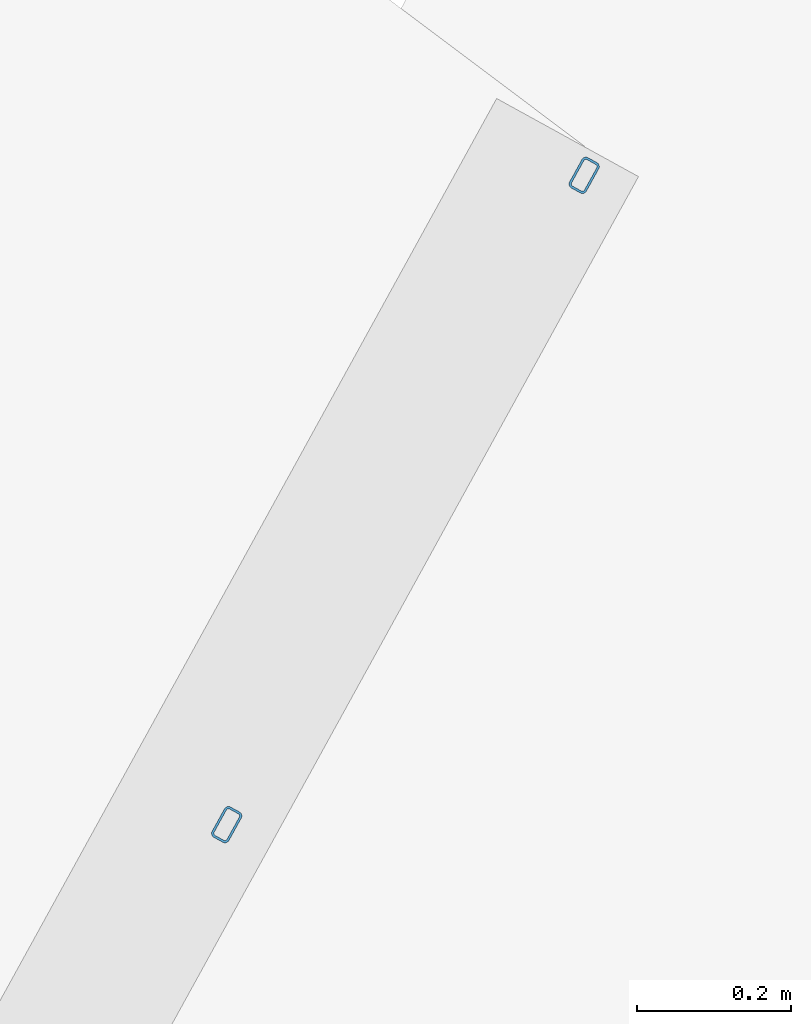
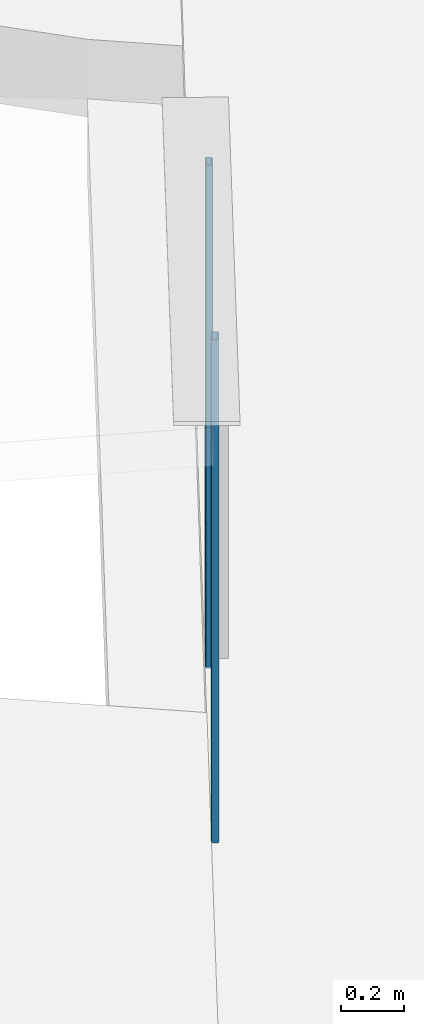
# One storey, part 3 of 33: 2 columns.
"""IFC2X3 building model written with IfcOpenShell, lengths in metres."""

from ifc_helpers import new_model, entity, si_unit, converted_unit, derived_unit, direction, frame, frame_2d, origin, place, context, subcontext, project, spatial, polyline, circle_curve, parameter, trimmed, segment, composite_curve, outline, extrude, source, transform, mapped, material, type_object, type_shapes, element, save


model = new_model("IFC2X3")

# Units and contexts
model_context = context("Model", 3, precision=1e-05, world=origin(), true_north=direction((6.123031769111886e-17, 1.0)))
body_context = subcontext(model_context, "Body", "Model", "MODEL_VIEW")
ifc_project = project(units=[si_unit("LENGTHUNIT", "METRE"), si_unit("AREAUNIT", "SQUARE_METRE"), si_unit("VOLUMEUNIT", "CUBIC_METRE"), converted_unit("PLANEANGLEUNIT", "DEGREE", entity("IfcRatioMeasure", 0.017453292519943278), si_unit("PLANEANGLEUNIT", "RADIAN"), dimensions=[0, 0, 0, 0, 0, 0, 0]), si_unit("MASSUNIT", "GRAM", prefix="KILO"), derived_unit("MASSDENSITYUNIT", [(si_unit("MASSUNIT", "GRAM", prefix="KILO"), 1), (si_unit("LENGTHUNIT", "METRE"), -3)]), derived_unit("IONCONCENTRATIONUNIT", [(si_unit("MASSUNIT", "GRAM", prefix="KILO"), 1), (si_unit("LENGTHUNIT", "METRE"), -3)]), derived_unit("MOMENTOFINERTIAUNIT", [(si_unit("LENGTHUNIT", "METRE"), 4)]), si_unit("TIMEUNIT", "SECOND"), si_unit("FREQUENCYUNIT", "HERTZ"), si_unit("THERMODYNAMICTEMPERATUREUNIT", "DEGREE_CELSIUS"), derived_unit("THERMALTRANSMITTANCEUNIT", [(si_unit("MASSUNIT", "GRAM", prefix="KILO"), 1), (si_unit("THERMODYNAMICTEMPERATUREUNIT", "KELVIN"), -1), (si_unit("TIMEUNIT", "SECOND"), -3)]), derived_unit("THERMALCONDUCTANCEUNIT", [(si_unit("MASSUNIT", "GRAM", prefix="KILO"), 1), (si_unit("THERMODYNAMICTEMPERATUREUNIT", "KELVIN"), -1), (si_unit("TIMEUNIT", "SECOND"), -3), (si_unit("LENGTHUNIT", "METRE"), 1)]), derived_unit("VOLUMETRICFLOWRATEUNIT", [(si_unit("LENGTHUNIT", "METRE"), 3), (si_unit("TIMEUNIT", "SECOND"), -1)]), derived_unit("MASSFLOWRATEUNIT", [(si_unit("MASSUNIT", "GRAM", prefix="KILO"), 1), (si_unit("TIMEUNIT", "SECOND"), -1)]), derived_unit("ROTATIONALFREQUENCYUNIT", [(si_unit("TIMEUNIT", "SECOND"), -1)]), si_unit("ELECTRICCURRENTUNIT", "AMPERE"), si_unit("ELECTRICVOLTAGEUNIT", "VOLT"), si_unit("POWERUNIT", "WATT"), si_unit("FORCEUNIT", "NEWTON", prefix="KILO"), si_unit("ILLUMINANCEUNIT", "LUX"), si_unit("LUMINOUSFLUXUNIT", "LUMEN"), si_unit("LUMINOUSINTENSITYUNIT", "CANDELA"), derived_unit("USERDEFINED", [(si_unit("MASSUNIT", "GRAM", prefix="KILO"), -1), (si_unit("LENGTHUNIT", "METRE"), -2), (si_unit("TIMEUNIT", "SECOND"), 3), (si_unit("LUMINOUSFLUXUNIT", "LUMEN"), 1)]), derived_unit("USERDEFINED", [(si_unit("MASSUNIT", "GRAM", prefix="KILO"), 1), (si_unit("TIMEUNIT", "SECOND"), -3), (si_unit("LENGTHUNIT", "METRE"), 3), (si_unit("ELECTRICCURRENTUNIT", "AMPERE"), -2)]), derived_unit("SOUNDPOWERUNIT", [(si_unit("MASSUNIT", "GRAM", prefix="KILO"), 1), (si_unit("TIMEUNIT", "SECOND"), -3), (si_unit("LENGTHUNIT", "METRE"), 2)]), derived_unit("SOUNDPRESSUREUNIT", [(si_unit("MASSUNIT", "GRAM", prefix="KILO"), 1), (si_unit("LENGTHUNIT", "METRE"), -1), (si_unit("TIMEUNIT", "SECOND"), -2)]), derived_unit("LINEARVELOCITYUNIT", [(si_unit("LENGTHUNIT", "METRE"), 1), (si_unit("TIMEUNIT", "SECOND"), -1)]), si_unit("PRESSUREUNIT", "PASCAL"), derived_unit("USERDEFINED", [(si_unit("MASSUNIT", "GRAM", prefix="KILO"), 1), (si_unit("LENGTHUNIT", "METRE"), -2), (si_unit("TIMEUNIT", "SECOND"), -2)]), derived_unit("LINEARFORCEUNIT", [(si_unit("MASSUNIT", "GRAM", prefix="KILO"), 1), (si_unit("TIMEUNIT", "SECOND"), -2)]), derived_unit("PLANARFORCEUNIT", [(si_unit("MASSUNIT", "GRAM", prefix="KILO"), 1), (si_unit("LENGTHUNIT", "METRE"), -1), (si_unit("TIMEUNIT", "SECOND"), -2)]), derived_unit("SPECIFICHEATCAPACITYUNIT", [(si_unit("THERMODYNAMICTEMPERATUREUNIT", "KELVIN"), -1), (si_unit("LENGTHUNIT", "METRE"), 2), (si_unit("TIMEUNIT", "SECOND"), -2)]), derived_unit("HEATINGVALUEUNIT", [(si_unit("LENGTHUNIT", "METRE"), 2), (si_unit("TIMEUNIT", "SECOND"), -2)]), derived_unit("VAPORPERMEABILITYUNIT", [(si_unit("LENGTHUNIT", "METRE"), -1), (si_unit("TIMEUNIT", "SECOND"), 1)]), derived_unit("DYNAMICVISCOSITYUNIT", [(si_unit("MASSUNIT", "GRAM", prefix="KILO"), 1), (si_unit("TIMEUNIT", "SECOND"), -1), (si_unit("LENGTHUNIT", "METRE"), -1)]), derived_unit("THERMALEXPANSIONCOEFFICIENTUNIT", [(si_unit("THERMODYNAMICTEMPERATUREUNIT", "KELVIN"), -1)]), derived_unit("MODULUSOFELASTICITYUNIT", [(si_unit("MASSUNIT", "GRAM", prefix="KILO"), 1), (si_unit("LENGTHUNIT", "METRE"), -1), (si_unit("TIMEUNIT", "SECOND"), -2)]), derived_unit("ISOTHERMALMOISTURECAPACITYUNIT", [(si_unit("LENGTHUNIT", "METRE"), 3), (si_unit("MASSUNIT", "GRAM", prefix="KILO"), -1)]), derived_unit("MOISTUREDIFFUSIVITYUNIT", [(si_unit("TIMEUNIT", "SECOND"), -1), (si_unit("LENGTHUNIT", "METRE"), 2)])], contexts=[model_context])

# Site, building, storey
site_placement = place(None, origin())
site = spatial("IfcSite", under=ifc_project, at=site_placement, Name="Superficie", CompositionType="ELEMENT")
building_placement = place(site_placement, frame((0.0, 0.0, 235.0), z_axis=(0.0, 0.0, 1.0), x_axis=(-0.7996477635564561, 0.6004693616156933, 0.0)))
building = spatial("IfcBuilding", under=site, at=building_placement, CompositionType="ELEMENT")
storey_placement = place(building_placement, origin())
storey = spatial("IfcBuildingStorey", under=building, at=storey_placement, Name="P0- Escola", CompositionType="ELEMENT", Elevation=0.0)

# Columns
ifc_material = material(Name="Metal - Acero - 345 MPa")
column_type = type_object("IfcColumnType", Name="STR- P- Acer- RHS- Rectangular- T1:45 x 25RHS", PredefinedType="COLUMN", material=ifc_material)
shared_shape = source(origin(), body_context, "Body", "SweptSolid", [
    extrude(outline(composite_curve([segment(polyline([(-0.006500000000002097, -0.022499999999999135), (0.0065000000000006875, -0.022499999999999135)]), True, "CONTINUOUS"), segment(trimmed(circle_curve(frame_2d((0.0065000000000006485, -0.016500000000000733), x_axis=(-1.0, 0.0)), 0.005999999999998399), [parameter(90.00000000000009)], [parameter(180.00000000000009)], True, "PARAMETER"), True, "CONTINUOUS"), segment(polyline([(0.012499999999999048, -0.01650000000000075), (0.012499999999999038, 0.01650000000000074)]), True, "CONTINUOUS"), segment(trimmed(circle_curve(frame_2d((0.006499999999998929, 0.016500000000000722), x_axis=(-1.0, 0.0)), 0.006000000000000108), [parameter(179.99999999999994)], [parameter(269.99999999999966)], True, "PARAMETER"), True, "CONTINUOUS"), segment(polyline([(0.006499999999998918, 0.022500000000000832), (-0.006499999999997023, 0.022500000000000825)]), True, "CONTINUOUS"), segment(trimmed(circle_curve(frame_2d((-0.006499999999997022, 0.016499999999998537), x_axis=(-1.0, 0.0)), 0.0060000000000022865), [parameter(269.99999999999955)], [parameter(359.9999999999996)], True, "PARAMETER"), True, "CONTINUOUS"), segment(polyline([(-0.012499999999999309, 0.01649999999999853), (-0.012499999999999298, -0.01650000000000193)]), True, "CONTINUOUS"), segment(trimmed(circle_curve(frame_2d((-0.006500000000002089, -0.01650000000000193), x_axis=(-1.0, 0.0)), 0.005999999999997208), [parameter(359.99999999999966)], [parameter(89.99999999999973)], True, "PARAMETER"), True, "CONTINUOUS")], self_intersect=False), holes=[composite_curve([segment(trimmed(circle_curve(frame_2d((-0.006500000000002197, -0.01650000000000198), x_axis=(-1.0, 0.0)), 0.0029999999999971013), [parameter(0.0)], [parameter(90.00000000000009)], True, "PARAMETER"), False, "CONTINUOUS"), segment(polyline([(-0.009499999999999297, -0.01650000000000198), (-0.009499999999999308, 0.01650000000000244)]), True, "CONTINUOUS"), segment(trimmed(circle_curve(frame_2d((-0.006500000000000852, 0.016500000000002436), x_axis=(-1.0, 0.0)), 0.0029999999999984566), [parameter(269.9999999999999)], [parameter(1.0177774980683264e-13)], True, "PARAMETER"), False, "CONTINUOUS"), segment(polyline([(-0.006500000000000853, 0.019500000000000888), (0.006499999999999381, 0.019500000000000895)]), True, "CONTINUOUS"), segment(trimmed(circle_curve(frame_2d((0.006499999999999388, 0.0164999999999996), x_axis=(-1.0, 0.0)), 0.0030000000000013), [parameter(179.99999999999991)], [parameter(270.0)], True, "PARAMETER"), False, "CONTINUOUS"), segment(polyline([(0.009500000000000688, 0.01649999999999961), (0.009500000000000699, -0.016499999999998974)]), True, "CONTINUOUS"), segment(trimmed(circle_curve(frame_2d((0.006500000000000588, -0.016499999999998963), x_axis=(-1.0, 0.0)), 0.0030000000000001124), [parameter(90.00000000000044)], [parameter(180.00000000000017)], True, "PARAMETER"), False, "CONTINUOUS"), segment(polyline([(0.006500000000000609, -0.019499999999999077), (-0.006500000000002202, -0.019499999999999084)]), True, "CONTINUOUS")], self_intersect=False)]), frame((0.0, 0.0, -0.22099999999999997), z_axis=(0.0, 0.0, 1.0), x_axis=(-1.0, 0.0, 0.0)), (0.0, 0.0, 1.0), 1.941),
])
type_shapes(column_type, [shared_shape])
for number, where, z_axis, x_axis, name in (
    (1, (28.12766372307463, -10.58450684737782, 0.0), (0.0, 0.0, 1.0), (0.9900940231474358, 0.14040593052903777, 0.0), "STR- P- Acer- RHS- Rectangular- T1:45 x 25RHS"),
    (2, (27.99265716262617, -9.632487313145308, 0.0), (0.0, 0.0, 1.0), (0.9900940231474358, 0.14040593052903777, 0.0), "STR- P- Acer- RHS- Rectangular- T1:45 x 25RHS"),
):
    element("IfcColumn", number, at=place(storey_placement, frame(where, z_axis=z_axis, x_axis=x_axis)), inside=storey, type_object=column_type, material=ifc_material, Name=name, ObjectType="STR- P- Acer- RHS- Rectangular- T1:45 x 25RHS", context=body_context, shape_type="MappedRepresentation", body=[
        mapped(shared_shape, transform((0.0, 0.0, 0.0), scale=1.0)),
    ])

save(model, "model.ifc")
